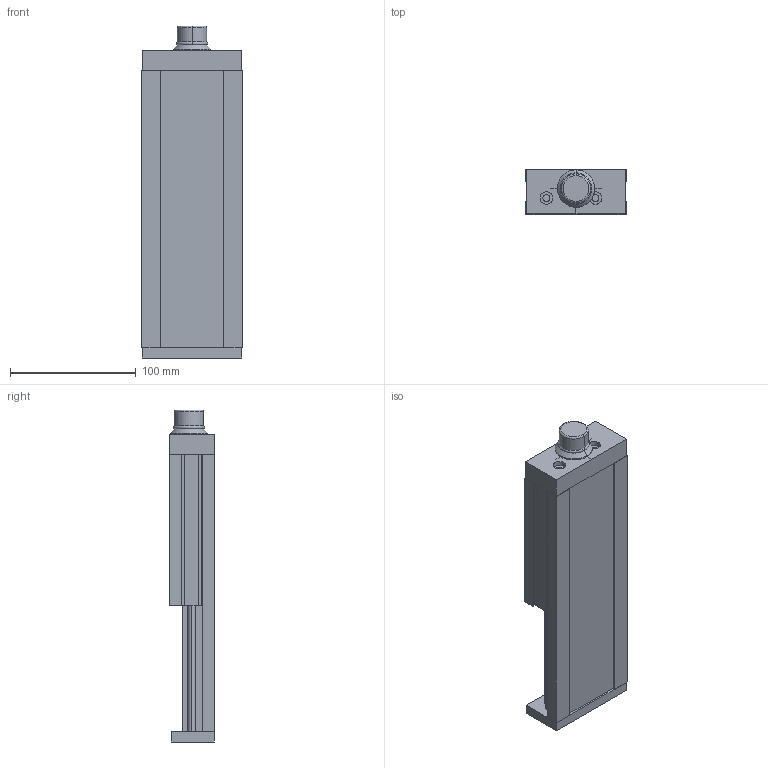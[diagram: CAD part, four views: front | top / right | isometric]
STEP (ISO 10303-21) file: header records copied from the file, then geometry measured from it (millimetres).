
FILE_DESCRIPTION (( 'STEP AP203' ), '1' );
FILE_NAME ('domiLINE 80 Hub 100.STEP', '2004-01-12T08:57:39', ( '' ), ( '' ), 'SwSTEP 2.0', 'SolidWorks 2003064', '' );
FILE_SCHEMA (( 'CONFIG_CONTROL_DESIGN' ));
Length unit declared in the file: millimetre
Products named in the file (3): domiLINE 80 Hub 100; Aussen neu light 80-+-D003976_ _Standard; dL80 neu light-+-D003977_ _100
Assembly tree (2 placements, depth 2):
  domiLINE 80 Hub 100
    Aussen neu light 80-+-D003976_ _Standard
    dL80 neu light-+-D003977_ _100
Bounding box: 80 x 36 x 263.5 mm (x, y, z)
Volume: 466788.6 mm3; surface area: 124350.2 mm2
Topology: 2 solids, 3 shells, 166 faces, 426 edges, 278 vertices
Faces by surface type: plane 114, cylinder 46, torus 4, cone 2
Entity records: 5333 total; most frequent: CARTESIAN_POINT 875, DIRECTION 872, ORIENTED_EDGE 852, EDGE_CURVE 426, LINE 322, VECTOR 322, VERTEX_POINT 278, AXIS2_PLACEMENT_3D 275
